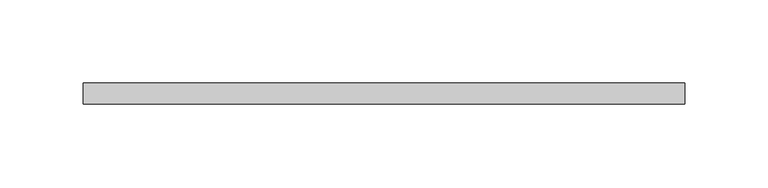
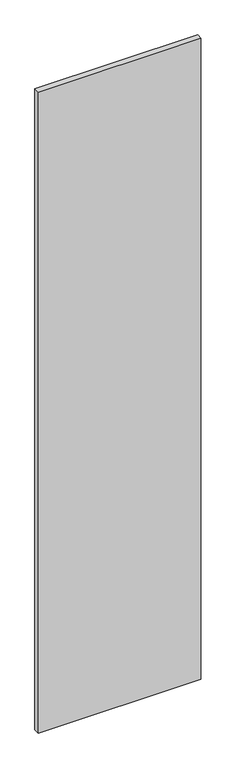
"""IFC4 building model written with IfcOpenShell, lengths in millimetres: proxy geometry, КНАУФ-Суперлист : КНАУФ-Суперлист."""

from ifc_helpers import new_model, si_unit, origin, origin_with_axes, place, context, project, spatial, polyline, outline, extrude, source, transform, mapped, element, save


def generic_models_81ac6650(model_context):
    return source(origin(), model_context, "Body", "SweptSolid", [
        extrude(outline(polyline([(180.0, 0.0), (180.0, -12.5), (-180.0, -12.5), (-180.0, 0.0), (180.0, 0.0)])), origin_with_axes(), (0.0, 0.0, 1.0), 1500.0),
    ])


if __name__ == "__main__":
    model = new_model("IFC4")
    model_context = context("Model", 3, world=origin())
    ifc_project = project(units=[si_unit("LENGTHUNIT", "METRE", prefix="MILLI")], contexts=[model_context])
    site = spatial("IfcSite", under=ifc_project)
    building = spatial("IfcBuilding", under=site)
    placement = place(None, origin())
    generic_models_shape = generic_models_81ac6650(model_context)
    element("IfcBuildingElementProxy", 1, Name="КНАУФ-Суперлист : КНАУФ-Суперлист", ObjectType="КНАУФ-Суперлист : КНАУФ-Суперлист", at=placement, inside=building, context=model_context, shape_type="MappedRepresentation", body=[
        mapped(generic_models_shape, transform((0.0, 0.0, 0.0), x_axis=(1.0, 0.0, 0.0), y_axis=(0.0, 1.0, 0.0), z_axis=(0.0, 0.0, 1.0))),
    ])
    save(model, "model.ifc")
